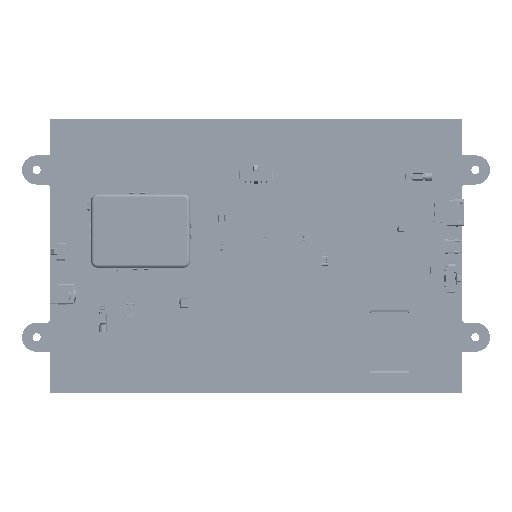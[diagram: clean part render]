
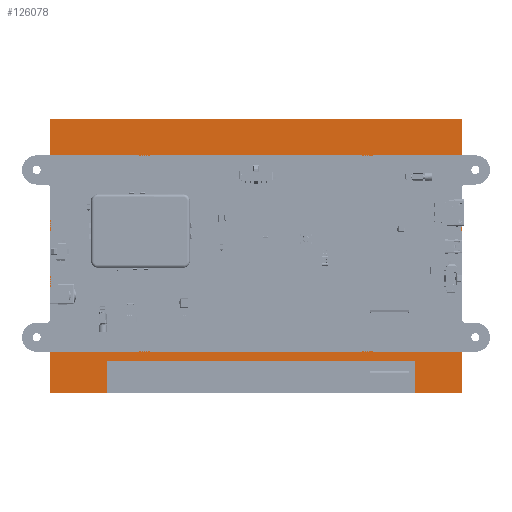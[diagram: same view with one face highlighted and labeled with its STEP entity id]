
A CAD part, top view. The second image highlights one B-rep face of the part: STEP entity #126078.
In plain terms, the highlighted planar face has unit normal (0, 0, 1) as drawn and (0, 0, -1) by its records, which use the part's own axes.
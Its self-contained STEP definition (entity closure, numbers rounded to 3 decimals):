
#29683 = EDGE_CURVE ( 'NONE', #783268, #1068796, #854282, .T. ) ;
#33131 = VECTOR ( 'NONE', #773074, 1000. ) ;
#35672 = VERTEX_POINT ( 'NONE', #754434 ) ;
#79390 = ORIENTED_EDGE ( 'NONE', *, *, #29683, .F. ) ;
#117144 = FACE_OUTER_BOUND ( 'NONE', #228449, .T. ) ;
#118166 = EDGE_CURVE ( 'NONE', #957327, #783268, #816706, .T. ) ;
#126078 = ADVANCED_FACE ( 'NONE', ( #117144 ), #446594, .F. ) ;
#152990 = CARTESIAN_POINT ( 'NONE',  ( 115.43, 74., 0. ) ) ;
#189366 = ORIENTED_EDGE ( 'NONE', *, *, #118166, .F. ) ;
#228449 = EDGE_LOOP ( 'NONE', ( #885420, #79390, #189366, #751890 ) ) ;
#300788 = EDGE_CURVE ( 'NONE', #1068796, #35672, #324016, .T. ) ;
#324016 = LINE ( 'NONE', #890563, #608373 ) ;
#412025 = DIRECTION ( 'NONE',  ( 0., 1., 0. ) ) ;
#444189 = CARTESIAN_POINT ( 'NONE',  ( -113.42, 74., 0. ) ) ;
#446594 = PLANE ( 'NONE',  #454165 ) ;
#454165 = AXIS2_PLACEMENT_3D ( 'NONE', #846063, #764914, #1024041 ) ;
#494034 = LINE ( 'NONE', #823163, #884325 ) ;
#580214 = DIRECTION ( 'NONE',  ( 1., 0., 0. ) ) ;
#582193 = EDGE_CURVE ( 'NONE', #35672, #957327, #494034, .T. ) ;
#608373 = VECTOR ( 'NONE', #799039, 1000. ) ;
#617814 = VECTOR ( 'NONE', #412025, 1000. ) ;
#720090 = CARTESIAN_POINT ( 'NONE',  ( 115.43, 74., 0. ) ) ;
#751890 = ORIENTED_EDGE ( 'NONE', *, *, #582193, .F. ) ;
#754434 = CARTESIAN_POINT ( 'NONE',  ( -113.42, -78.74, 0. ) ) ;
#764914 = DIRECTION ( 'NONE',  ( 0., 0., 1. ) ) ;
#773074 = DIRECTION ( 'NONE',  ( -1., 0., 0. ) ) ;
#783268 = VERTEX_POINT ( 'NONE', #720090 ) ;
#799039 = DIRECTION ( 'NONE',  ( 0., -1., 0. ) ) ;
#816706 = LINE ( 'NONE', #152990, #617814 ) ;
#823163 = CARTESIAN_POINT ( 'NONE',  ( -113.42, -78.74, 0. ) ) ;
#846063 = CARTESIAN_POINT ( 'NONE',  ( 0., 0., 0. ) ) ;
#854282 = LINE ( 'NONE', #444189, #33131 ) ;
#884325 = VECTOR ( 'NONE', #580214, 1000. ) ;
#885420 = ORIENTED_EDGE ( 'NONE', *, *, #300788, .F. ) ;
#890563 = CARTESIAN_POINT ( 'NONE',  ( -113.42, 74., 0. ) ) ;
#957327 = VERTEX_POINT ( 'NONE', #1016460 ) ;
#1011290 = CARTESIAN_POINT ( 'NONE',  ( -113.42, 74., 0. ) ) ;
#1016460 = CARTESIAN_POINT ( 'NONE',  ( 115.43, -78.74, 0. ) ) ;
#1024041 = DIRECTION ( 'NONE',  ( 1., 0., 0. ) ) ;
#1068796 = VERTEX_POINT ( 'NONE', #1011290 ) ;
